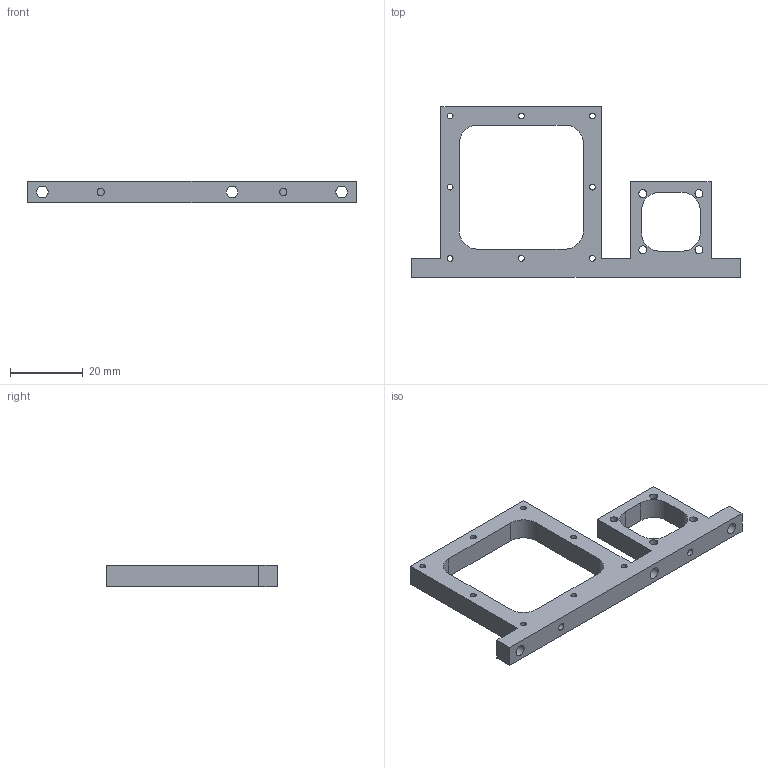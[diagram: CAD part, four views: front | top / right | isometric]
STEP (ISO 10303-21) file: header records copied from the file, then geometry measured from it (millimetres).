
FILE_DESCRIPTION(/* description */ ('','CAx-IF Rec.Pracs.---Representation and Presentation of Product Manufacturing Information (PMI)---4.0---2014-10-13'),/* implementation_level */ '2;1');
FILE_NAME(/* name */ 'a1_mini_toolhead_bottom_v4.step',/* time_stamp */ '2024-12-17T14:59:03+08:00',/* author */ (''),/* organization */ (''),/* preprocessor_version */ 'ST-DEVELOPER v20',/* originating_system */ 'Autodesk Translation Framework v13.20.0.188',/* authorisation */ '');
FILE_SCHEMA (('AP242_MANAGED_MODEL_BASED_3D_ENGINEERING_MIM_LF { 1 0 10303 442 1 1 4 }'));
Length unit declared in the file: millimetre
Products named in the file (1): a1_mini_toolhead_bottom
Bounding box: 90 x 46.67 x 6 mm (x, y, z)
Volume: 7907.2 mm3; surface area: 6275 mm2
Topology: 1 solids, 1 shells, 47 faces, 135 edges, 90 vertices
Faces by surface type: cylinder 25, plane 22
Full cylindrical faces by diameter (mm): 1.6 x8, 2 x2, 2.2 x4, 3.2 x3
Entity records: 1668 total; most frequent: DIRECTION 281, CARTESIAN_POINT 273, ORIENTED_EDGE 270, EDGE_CURVE 135, AXIS2_PLACEMENT_3D 98, VERTEX_POINT 90, EDGE_LOOP 85, LINE 85
